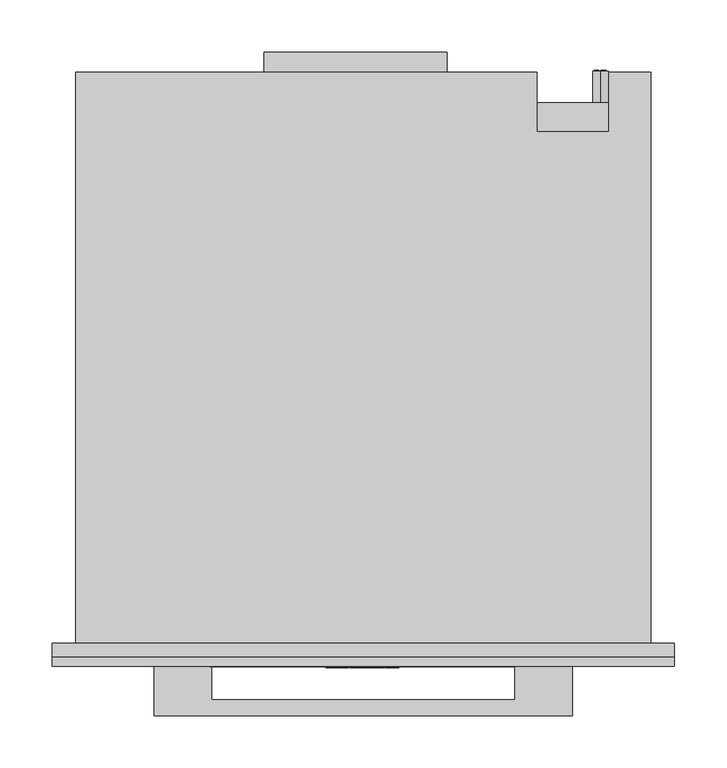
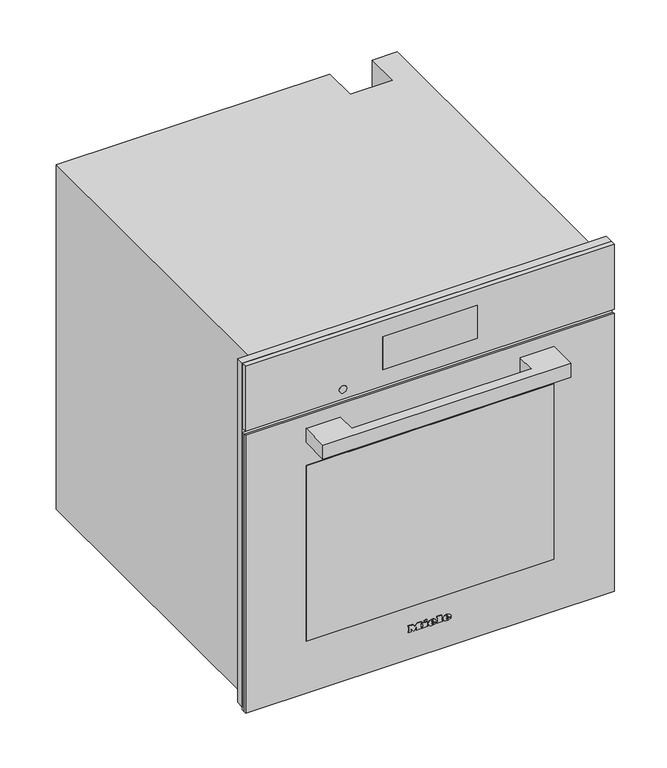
"""IFC4 building model written with IfcOpenShell, lengths in millimetres: proxy geometry, 11877000_USA_DGC7860_OBSW : 23786023_USA_11877000_DGC7860_OBSW."""

from ifc_helpers import new_model, si_unit, point, frame, frame_2d, origin, place, context, project, spatial, polyline, circle_curve, ellipse_curve, trimmed, segment, composite_curve, outline, extrude, faceted_brep, source, transform, mapped, element, save
from ifc_brep_helpers import plane_surface, cylinder_surface, revolved_surface, extruded_surface, advanced_brep


def specialty_equipment_37460341(model_context):
    return source(origin(), model_context, "Body", "SolidModel", [
        extrude(outline(polyline([(596.0, 297.5), (596.0, -297.5), (9.0, -297.5), (9.0, 297.5), (596.0, 297.5)]), holes=[polyline([(485.0, -272.5), (485.0, 272.5), (27.0, 272.5), (27.0, -272.5), (485.0, -272.5)])]), frame((0.0, -13.0, 0.0), z_axis=(0.0, 1.0, 0.0), x_axis=(0.0, 0.0, 1.0)), (0.0, 0.0, 1.0), 13.0),
        extrude(outline(polyline([(-95.0, 565.0), (80.0, 565.0), (80.0, 546.0), (-95.0, 546.0), (-95.0, 565.0)])), frame((0.0, 0.0, 311.0), z_axis=(0.0, 0.0, 1.0), x_axis=(1.0, 0.0, 0.0)), (0.0, 0.0, 1.0), 1.0),
        advanced_brep(
        [(227.0, 547.0, 396.5), (227.0, 547.0, 381.5), (221.4098301, 547.0, 384.0), (225.5, 547.0, 384.0), (225.5, 547.0, 394.0), (224.4955303, 547.0, 394.0), (224.4955303, 547.0, 385.0), (221.0315043, 547.0, 385.0), (221.0315043, 547.0, 384.4582978), (232.0, 547.0, 384.0), (232.0, 547.0, 394.0), (227.0, 547.0, 394.0), (227.0, 547.0, 393.0), (231.0, 547.0, 393.0), (231.0, 547.0, 389.5), (228.0, 547.0, 389.5), (228.0, 547.0, 388.5), (231.0, 547.0, 388.5), (231.0, 547.0, 385.0), (227.0, 547.0, 385.0), (227.0, 547.0, 384.0), (227.0, 517.0, 381.5), (227.0, 517.0, 396.5), (232.0, 548.0, 394.0), (232.0, 548.0, 384.0), (227.0, 548.0, 384.0), (227.0, 548.0, 385.0), (231.0, 548.0, 385.0), (231.0, 548.0, 388.5), (228.0, 548.0, 388.5), (228.0, 548.0, 389.5), (231.0, 548.0, 389.5), (231.0, 548.0, 393.0), (227.0, 548.0, 393.0), (227.0, 548.0, 394.0), (225.5, 548.0, 384.0), (221.0315043, 548.0, 384.0), (221.0315043, 548.0, 385.0), (224.4955303, 548.0, 385.0), (224.4955303, 548.0, 394.0), (225.5, 548.0, 394.0), (221.0315043, 547.0, 384.0)],
        [
            (0, 1, circle_curve(frame((227.0, 547.0, 389.0), z_axis=(0.0, 1.0, 0.0), x_axis=(0.0, 0.0, 1.0)), 7.5)),
            (1, 2, circle_curve(frame((227.0, 547.0, 389.0), z_axis=(0.0, 1.0, 0.0), x_axis=(0.0, 0.0, 1.0)), 7.5)),
            (2, 3),
            (3, 4),
            (4, 5),
            (5, 6),
            (6, 7),
            (7, 8),
            (8, 0, circle_curve(frame((227.0, 547.0, 389.0), z_axis=(0.0, 1.0, 0.0), x_axis=(0.0, 0.0, 1.0)), 7.5)),
            (9, 10),
            (10, 11),
            (11, 12),
            (12, 13),
            (13, 14),
            (14, 15),
            (15, 16),
            (16, 17),
            (17, 18),
            (18, 19),
            (19, 20),
            (20, 9),
            (21, 22, circle_curve(frame((227.0, 517.0, 389.0), z_axis=(0.0, -1.0, 0.0), x_axis=(0.0, 0.0, 1.0)), 7.5)),
            (22, 21, circle_curve(frame((227.0, 517.0, 389.0), z_axis=(0.0, -1.0, 0.0), x_axis=(0.0, 0.0, 1.0)), 7.5)),
            (0, 22),
            (21, 1),
            (8, 2, circle_curve(frame((227.0, 547.0, 389.0), z_axis=(0.0, -1.0, 0.0), x_axis=(0.0, 0.0, 1.0)), 7.5)),
            (23, 24),
            (24, 25),
            (25, 26),
            (26, 27),
            (27, 28),
            (28, 29),
            (29, 30),
            (30, 31),
            (31, 32),
            (32, 33),
            (33, 34),
            (34, 23),
            (35, 36),
            (36, 37),
            (37, 38),
            (38, 39),
            (39, 40),
            (40, 35),
            (8, 41),
            (41, 2),
            (23, 10),
            (9, 24),
            (20, 25),
            (19, 26),
            (18, 27),
            (17, 28),
            (16, 29),
            (15, 30),
            (14, 31),
            (13, 32),
            (12, 33),
            (11, 34),
            (35, 3),
            (41, 36),
            (7, 37),
            (6, 38),
            (5, 39),
            (4, 40),
        ],
        [
            plane_surface(frame((227.0, 547.0, 396.5), z_axis=(0.0, 1.0, 0.0), x_axis=(1.0, 0.0, 0.0))),
            plane_surface(frame((227.0, 517.0, 396.5), z_axis=(0.0, -1.0, 0.0), x_axis=(-1.0, 0.0, 0.0))),
            cylinder_surface(frame((227.0, 547.0, 389.0), z_axis=(0.0, -1.0, 0.0), x_axis=(0.0, 0.0, 1.0)), 7.5),
            plane_surface(frame((232.0, 548.0, 394.0), z_axis=(0.0, 1.0, 0.0), x_axis=(0.0, 0.0, -1.0))),
            plane_surface(frame((232.0, 547.0, 394.0), z_axis=(0.0, -1.0, 0.0), x_axis=(0.0, 0.0, 1.0))),
            plane_surface(frame((232.0, 548.0, 394.0), z_axis=(1.0, 0.0, 0.0), x_axis=(0.0, -1.0, 0.0))),
            plane_surface(frame((232.0, 548.0, 384.0), z_axis=(0.0, 0.0, -1.0), x_axis=(0.0, -1.0, 0.0))),
            plane_surface(frame((227.0, 548.0, 384.0), z_axis=(-1.0, 0.0, 0.0), x_axis=(0.0, -1.0, 0.0))),
            plane_surface(frame((227.0, 548.0, 385.0), z_axis=(0.0, 0.0, 1.0), x_axis=(0.0, -1.0, 0.0))),
            plane_surface(frame((231.0, 548.0, 385.0), z_axis=(-1.0, 0.0, 0.0), x_axis=(0.0, -1.0, 0.0))),
            plane_surface(frame((231.0, 548.0, 388.5), z_axis=(0.0, 0.0, -1.0), x_axis=(0.0, -1.0, 0.0))),
            plane_surface(frame((228.0, 548.0, 388.5), z_axis=(-1.0, 0.0, 0.0), x_axis=(0.0, -1.0, 0.0))),
            plane_surface(frame((228.0, 548.0, 389.5), z_axis=(0.0, 0.0, 1.0), x_axis=(0.0, -1.0, 0.0))),
            plane_surface(frame((231.0, 548.0, 389.5), z_axis=(-1.0, 0.0, 0.0), x_axis=(0.0, -1.0, 0.0))),
            plane_surface(frame((231.0, 548.0, 393.0), z_axis=(0.0, 0.0, -1.0), x_axis=(0.0, -1.0, 0.0))),
            plane_surface(frame((227.0, 548.0, 393.0), z_axis=(-1.0, 0.0, 0.0), x_axis=(0.0, -1.0, 0.0))),
            plane_surface(frame((227.0, 548.0, 394.0), z_axis=(0.0, 0.0, 1.0), x_axis=(0.0, -1.0, 0.0))),
            plane_surface(frame((225.5, 548.0, 384.0), z_axis=(0.0, 0.0, -1.0), x_axis=(0.0, -1.0, 0.0))),
            plane_surface(frame((221.0315043, 548.0, 384.0), z_axis=(-1.0, 0.0, 0.0), x_axis=(0.0, -1.0, 0.0))),
            plane_surface(frame((221.0315043, 548.0, 385.0), z_axis=(0.0, 0.0, 1.0), x_axis=(0.0, -1.0, 0.0))),
            plane_surface(frame((224.4955303, 548.0, 385.0), z_axis=(-1.0, 0.0, 0.0), x_axis=(0.0, -1.0, 0.0))),
            plane_surface(frame((224.4955303, 548.0, 394.0), z_axis=(0.0, 0.0, 1.0), x_axis=(0.0, -1.0, 0.0))),
            plane_surface(frame((225.5, 548.0, 394.0), z_axis=(1.0, 0.0, 0.0), x_axis=(0.0, -1.0, 0.0))),
        ],
        [
            (0, [[1, 2, 3, 4, 5, 6, 7, 8, 9], [10, 11, 12, 13, 14, 15, 16, 17, 18, 19, 20, 21]]),
            (1, [[22, 23]]),
            (2, [[-1, 24, -22, 25]]),
            (2, [[-23, -24, -9, 26, -2, -25]]),
            (3, [[27, 28, 29, 30, 31, 32, 33, 34, 35, 36, 37, 38]]),
            (3, [[39, 40, 41, 42, 43, 44]]),
            (4, [[45, 46, -26]]),
            (5, [[-27, 47, -10, 48]]),
            (6, [[-28, -48, -21, 49]]),
            (7, [[-29, -49, -20, 50]]),
            (8, [[-30, -50, -19, 51]]),
            (9, [[-31, -51, -18, 52]]),
            (10, [[-32, -52, -17, 53]]),
            (11, [[-33, -53, -16, 54]]),
            (12, [[-34, -54, -15, 55]]),
            (13, [[-35, -55, -14, 56]]),
            (14, [[-36, -56, -13, 57]]),
            (15, [[-37, -57, -12, 58]]),
            (16, [[-38, -58, -11, -47]]),
            (17, [[-39, 59, -3, -46, 60]]),
            (18, [[-40, -60, -45, -8, 61]]),
            (19, [[-41, -61, -7, 62]]),
            (20, [[-42, -62, -6, 63]]),
            (21, [[-43, -63, -5, 64]]),
            (22, [[-44, -64, -4, -59]]),
        ],
    ),
        faceted_brep([(-275.0, 546.0, 0.0), (-275.0, 546.0, 588.0), (166.0, 546.0, 588.0), (166.0, 546.0, 0.0), (235.0, 546.0, 588.0), (275.0, 546.0, 588.0), (275.0, 546.0, 478.0), (235.0, 546.0, 478.0), (275.0, 0.0, 588.0), (-275.0, 0.0, 588.0), (-275.0, 0.0, 0.0), (275.0, 0.0, 0.0), (-272.5, 0.0, 485.0), (272.5, 0.0, 485.0), (272.5, 0.0, 27.0), (-272.5, 0.0, 27.0), (235.0, 489.0, 588.0), (166.0, 489.0, 588.0), (166.0, 517.0, 0.0), (275.0, 517.0, 0.0), (275.0, 517.0, 478.0), (272.5, 17.0, 485.0), (-272.5, 17.0, 485.0), (-272.5, 17.0, 27.0), (272.5, 17.0, 27.0), (231.0, 17.0, 409.0), (231.0, 17.0, 61.0), (-231.0, 17.0, 61.0), (-231.0, 17.0, 409.0), (231.0, 411.0, 409.0), (-231.0, 411.0, 409.0), (-231.0, 411.0, 61.0), (231.0, 411.0, 61.0), (235.0, 489.0, 477.0), (166.0, 489.0, 477.0), (166.0, 517.0, 477.0), (235.0, 517.0, 477.0), (235.0, 517.0, 478.0)], [[[0, 1, 2, 3]], [[4, 5, 6, 7]], [[8, 9, 10, 11], [12, 13, 14, 15]], [[9, 8, 5, 4, 16, 17, 2, 1]], [[1, 0, 10, 9]], [[11, 10, 0, 3, 18, 19]], [[8, 11, 19, 20, 6, 5]], [[21, 22, 23, 24], [25, 26, 27, 28]], [[22, 21, 13, 12]], [[23, 22, 12, 15]], [[24, 23, 15, 14]], [[21, 24, 14, 13]], [[29, 30, 31, 32]], [[29, 32, 26, 25]], [[32, 31, 27, 26]], [[31, 30, 28, 27]], [[30, 29, 25, 28]], [[16, 33, 34, 17]], [[17, 34, 35, 18, 3, 2]], [[34, 33, 36, 35]], [[33, 16, 4, 7, 37, 36]], [[37, 20, 19, 18, 35, 36]], [[20, 37, 7, 6]]]),
        advanced_brep(
        [(26.2998, -23.0, 52.7018), (26.2998, -23.0, 53.8532), (33.9264, -23.0, 53.8532), (20.6568, -23.0, 53.8532), (23.7918, -23.0, 50.0), (33.7326, -23.0, 52.7018), (30.2898, -23.0, 52.7018), (27.5766, -23.0, 51.425), (26.2998, -23.0, 55.3124), (26.2998, -23.0, 56.555), (28.2492, -23.0, 56.555), (28.2492, -23.0, 55.3124), (26.2998, -22.0, 52.7018), (27.5766, -22.0, 51.425), (30.2898, -22.0, 52.7018), (33.7326, -22.0, 52.7018), (23.7918, -22.0, 50.0), (20.6568, -22.0, 53.8532), (33.9264, -22.0, 53.8532), (26.2998, -22.0, 53.8532), (26.2998, -22.0, 55.3124), (28.2492, -22.0, 55.3124), (28.2492, -22.0, 56.555), (26.2998, -22.0, 56.555)],
        [
            (0, 1),
            (1, 2),
            (2, 3, ellipse_curve(frame((27.2916, -23.0, 53.8532), z_axis=(0.0, -1.0, 0.0), x_axis=(-1.0, 0.0, 0.0)), 6.6348, 5.4834)),
            (3, 4, circle_curve(frame((25.0686622, -23.0, 54.2408), z_axis=(0.0, -1.0, 0.0), x_axis=(0.0, 0.0, -1.0)), 4.4288556)),
            (4, 5, circle_curve(frame((27.1587808, -23.0, 57.2504), z_axis=(0.0, -1.0, 0.0), x_axis=(0.0, 0.0, -1.0)), 7.9940516)),
            (5, 6),
            (6, 7, circle_curve(frame((28.1338588, -23.0, 53.762), z_axis=(0.0, 1.0, 0.0), x_axis=(0.0, 0.0, -1.0)), 2.4025208)),
            (7, 0, circle_curve(frame((27.5766, -23.0, 52.7018), z_axis=(0.0, 1.0, 0.0), x_axis=(0.0, 0.0, -1.0)), 1.2768)),
            (8, 9),
            (9, 10, circle_curve(frame((27.2745, -23.0, 56.555), z_axis=(0.0, 1.0, 0.0), x_axis=(0.0, 0.0, -1.0)), 0.9747)),
            (10, 11),
            (11, 8),
            (12, 13, circle_curve(frame((27.5766, -22.0, 52.7018), z_axis=(0.0, -1.0, 0.0), x_axis=(0.0, 0.0, -1.0)), 1.2768)),
            (13, 14, circle_curve(frame((28.1338588, -22.0, 53.762), z_axis=(0.0, -1.0, 0.0), x_axis=(0.0, 0.0, -1.0)), 2.4025208)),
            (14, 15),
            (15, 16, circle_curve(frame((27.1587808, -22.0, 57.2504), z_axis=(0.0, 1.0, 0.0), x_axis=(0.0, 0.0, -1.0)), 7.9940516)),
            (16, 17, circle_curve(frame((25.0686622, -22.0, 54.2408), z_axis=(0.0, 1.0, 0.0), x_axis=(0.0, 0.0, -1.0)), 4.4288556)),
            (17, 18, ellipse_curve(frame((27.2916, -22.0, 53.8532), z_axis=(0.0, 1.0, 0.0), x_axis=(-1.0, 0.0, 0.0)), 6.6348, 5.4834)),
            (18, 19),
            (19, 12),
            (20, 21),
            (21, 22),
            (22, 23, circle_curve(frame((27.2745, -22.0, 56.555), z_axis=(0.0, -1.0, 0.0), x_axis=(0.0, 0.0, -1.0)), 0.9747)),
            (23, 20),
            (0, 12),
            (19, 1),
            (18, 2),
            (5, 15),
            (14, 6),
            (17, 3),
            (13, 7),
            (16, 4),
            (8, 20),
            (23, 9),
            (22, 10),
            (21, 11),
        ],
        [
            plane_surface(frame((26.2998, -23.0, 53.8532), z_axis=(0.0, -1.0, 0.0), x_axis=(0.0, 0.0, 1.0))),
            plane_surface(frame((26.2998, -22.0, 53.8532), z_axis=(0.0, 1.0, 0.0), x_axis=(0.0, 0.0, -1.0))),
            plane_surface(frame((26.2998, -23.0, 52.7018), z_axis=(1.0, 0.0, 0.0), x_axis=(0.0, 1.0, 0.0))),
            plane_surface(frame((26.2998, -23.0, 53.8532), z_axis=(0.0, 0.0, -1.0), x_axis=(0.0, 1.0, 0.0))),
            plane_surface(frame((33.7326, -23.0, 52.7018), z_axis=(0.0, 0.0, 1.0), x_axis=(0.0, 1.0, 0.0))),
            extruded_surface(trimmed(ellipse_curve(frame((27.2916, -21.0, 53.8532), z_axis=(0.0, -1.0, 0.0), x_axis=(-1.0, 0.0, 0.0)), 6.6348, 5.4834), [point((33.9264, -21.0, 53.8532))], [point((20.6568, -21.0, 53.8532))], True, "CARTESIAN"), (0.0, -1.0, 0.0), 1.0),
            revolved_surface(polyline([(28.1338588, -22.0, 51.3594792), (28.1338588, -23.0, 51.3594792)]), (28.1338588, -22.0, 53.762), (0.0, 1.0, 0.0)),
            revolved_surface(polyline([(27.5766, -22.0, 51.425), (27.5766, -23.0, 51.425)]), (27.5766, -22.0, 52.7018), (0.0, 1.0, 0.0)),
            cylinder_surface(frame((25.0686622, -22.0, 54.2408), z_axis=(0.0, -1.0, 0.0), x_axis=(0.0, 0.0, -1.0)), 4.4288556),
            cylinder_surface(frame((27.1587808, -22.0, 57.2504), z_axis=(0.0, -1.0, 0.0), x_axis=(0.0, 0.0, -1.0)), 7.9940516),
            plane_surface(frame((26.2998, -23.0, 55.3124), z_axis=(1.0, 0.0, 0.0), x_axis=(0.0, 1.0, 0.0))),
            revolved_surface(polyline([(27.2745, -22.0, 55.5803), (27.2745, -23.0, 55.5803)]), (27.2745, -22.0, 56.555), (0.0, 1.0, 0.0)),
            plane_surface(frame((28.2492, -23.0, 56.555), z_axis=(-1.0, 0.0, 0.0), x_axis=(0.0, 1.0, 0.0))),
            plane_surface(frame((28.2492, -23.0, 55.3124), z_axis=(0.0, 0.0, 1.0), x_axis=(0.0, 1.0, 0.0))),
        ],
        [
            (0, [[1, 2, 3, 4, 5, 6, 7, 8], [9, 10, 11, 12]]),
            (1, [[13, 14, 15, 16, 17, 18, 19, 20], [21, 22, 23, 24]]),
            (2, [[-1, 25, -20, 26]]),
            (3, [[-2, -26, -19, 27]]),
            (4, [[-6, 28, -15, 29]]),
            (5, [[-3, -27, -18, 30]]),
            (6, [[-7, -29, -14, 31]]),
            (7, [[-8, -31, -13, -25]]),
            (8, [[-4, -30, -17, 32]]),
            (9, [[-5, -32, -16, -28]]),
            (10, [[-9, 33, -24, 34]]),
            (11, [[-10, -34, -23, 35]]),
            (12, [[-11, -35, -22, 36]]),
            (13, [[-12, -36, -21, -33]]),
        ],
    ),
        advanced_brep(
        [(2.508, -23.0, 52.7018), (2.508, -23.0, 53.8532), (10.1346, -23.0, 53.8532), (-3.135, -23.0, 53.8532), (0.0, -23.0, 50.0), (9.9408, -23.0, 52.7018), (6.498, -23.0, 52.7018), (3.7848, -23.0, 51.425), (2.508, -23.0, 55.3124), (2.508, -23.0, 56.555), (4.4574, -23.0, 56.555), (4.4574, -23.0, 55.3124), (2.508, -22.0, 52.7018), (3.7848, -22.0, 51.425), (6.498, -22.0, 52.7018), (9.9408, -22.0, 52.7018), (0.0, -22.0, 50.0), (-3.135, -22.0, 53.8532), (10.1346, -22.0, 53.8532), (2.508, -22.0, 53.8532), (2.508, -22.0, 55.3124), (4.4574, -22.0, 55.3124), (4.4574, -22.0, 56.555), (2.508, -22.0, 56.555)],
        [
            (0, 1),
            (1, 2),
            (2, 3, ellipse_curve(frame((3.4998, -23.0, 53.8532), z_axis=(0.0, -1.0, 0.0), x_axis=(-1.0, 0.0, 0.0)), 6.6348, 5.4834)),
            (3, 4, circle_curve(frame((1.2768622, -23.0, 54.2408), z_axis=(0.0, -1.0, 0.0), x_axis=(0.0, 0.0, -1.0)), 4.4288556)),
            (4, 5, circle_curve(frame((3.3669808, -23.0, 57.2504), z_axis=(0.0, -1.0, 0.0), x_axis=(0.0, 0.0, -1.0)), 7.9940516)),
            (5, 6),
            (6, 7, circle_curve(frame((4.3420588, -23.0, 53.762), z_axis=(0.0, 1.0, 0.0), x_axis=(0.0, 0.0, -1.0)), 2.4025208)),
            (7, 0, circle_curve(frame((3.7848, -23.0, 52.7018), z_axis=(0.0, 1.0, 0.0), x_axis=(0.0, 0.0, -1.0)), 1.2768)),
            (8, 9),
            (9, 10, circle_curve(frame((3.4827, -23.0, 56.555), z_axis=(0.0, 1.0, 0.0), x_axis=(0.0, 0.0, -1.0)), 0.9747)),
            (10, 11),
            (11, 8),
            (12, 13, circle_curve(frame((3.7848, -22.0, 52.7018), z_axis=(0.0, -1.0, 0.0), x_axis=(0.0, 0.0, -1.0)), 1.2768)),
            (13, 14, circle_curve(frame((4.3420588, -22.0, 53.762), z_axis=(0.0, -1.0, 0.0), x_axis=(0.0, 0.0, -1.0)), 2.4025208)),
            (14, 15),
            (15, 16, circle_curve(frame((3.3669808, -22.0, 57.2504), z_axis=(0.0, 1.0, 0.0), x_axis=(0.0, 0.0, -1.0)), 7.9940516)),
            (16, 17, circle_curve(frame((1.2768622, -22.0, 54.2408), z_axis=(0.0, 1.0, 0.0), x_axis=(0.0, 0.0, -1.0)), 4.4288556)),
            (17, 18, ellipse_curve(frame((3.4998, -22.0, 53.8532), z_axis=(0.0, 1.0, 0.0), x_axis=(-1.0, 0.0, 0.0)), 6.6348, 5.4834)),
            (18, 19),
            (19, 12),
            (20, 21),
            (21, 22),
            (22, 23, circle_curve(frame((3.4827, -22.0, 56.555), z_axis=(0.0, -1.0, 0.0), x_axis=(0.0, 0.0, -1.0)), 0.9747)),
            (23, 20),
            (0, 12),
            (19, 1),
            (18, 2),
            (5, 15),
            (14, 6),
            (17, 3),
            (13, 7),
            (16, 4),
            (8, 20),
            (23, 9),
            (22, 10),
            (21, 11),
        ],
        [
            plane_surface(frame((2.508, -23.0, 53.8532), z_axis=(0.0, -1.0, 0.0), x_axis=(0.0, 0.0, 1.0))),
            plane_surface(frame((2.508, -22.0, 53.8532), z_axis=(0.0, 1.0, 0.0), x_axis=(0.0, 0.0, -1.0))),
            plane_surface(frame((2.508, -23.0, 52.7018), z_axis=(1.0, 0.0, 0.0), x_axis=(0.0, 1.0, 0.0))),
            plane_surface(frame((2.508, -23.0, 53.8532), z_axis=(0.0, 0.0, -1.0), x_axis=(0.0, 1.0, 0.0))),
            plane_surface(frame((9.9408, -23.0, 52.7018), z_axis=(0.0, 0.0, 1.0), x_axis=(0.0, 1.0, 0.0))),
            extruded_surface(trimmed(ellipse_curve(frame((3.4998, -21.0, 53.8532), z_axis=(0.0, -1.0, 0.0), x_axis=(-1.0, 0.0, 0.0)), 6.6348, 5.4834), [point((10.1346, -21.0, 53.8532))], [point((-3.135, -21.0, 53.8532))], True, "CARTESIAN"), (0.0, -1.0, 0.0), 1.0),
            revolved_surface(polyline([(4.3420588, -22.0, 51.3594792), (4.3420588, -23.0, 51.3594792)]), (4.3420588, -22.0, 53.762), (0.0, 1.0, 0.0)),
            revolved_surface(polyline([(3.7848, -22.0, 51.425), (3.7848, -23.0, 51.425)]), (3.7848, -22.0, 52.7018), (0.0, 1.0, 0.0)),
            cylinder_surface(frame((1.2768622, -22.0, 54.2408), z_axis=(0.0, -1.0, 0.0), x_axis=(0.0, 0.0, -1.0)), 4.4288556),
            cylinder_surface(frame((3.3669808, -22.0, 57.2504), z_axis=(0.0, -1.0, 0.0), x_axis=(0.0, 0.0, -1.0)), 7.9940516),
            plane_surface(frame((2.508, -23.0, 55.3124), z_axis=(1.0, 0.0, 0.0), x_axis=(0.0, 1.0, 0.0))),
            revolved_surface(polyline([(3.4827, -22.0, 55.5803), (3.4827, -23.0, 55.5803)]), (3.4827, -22.0, 56.555), (0.0, 1.0, 0.0)),
            plane_surface(frame((4.4574, -23.0, 56.555), z_axis=(-1.0, 0.0, 0.0), x_axis=(0.0, 1.0, 0.0))),
            plane_surface(frame((4.4574, -23.0, 55.3124), z_axis=(0.0, 0.0, 1.0), x_axis=(0.0, 1.0, 0.0))),
        ],
        [
            (0, [[1, 2, 3, 4, 5, 6, 7, 8], [9, 10, 11, 12]]),
            (1, [[13, 14, 15, 16, 17, 18, 19, 20], [21, 22, 23, 24]]),
            (2, [[-1, 25, -20, 26]]),
            (3, [[-2, -26, -19, 27]]),
            (4, [[-6, 28, -15, 29]]),
            (5, [[-3, -27, -18, 30]]),
            (6, [[-7, -29, -14, 31]]),
            (7, [[-8, -31, -13, -25]]),
            (8, [[-4, -30, -17, 32]]),
            (9, [[-5, -32, -16, -28]]),
            (10, [[-9, 33, -24, 34]]),
            (11, [[-10, -34, -23, 35]]),
            (12, [[-11, -35, -22, 36]]),
            (13, [[-12, -36, -21, -33]]),
        ],
    ),
        extrude(outline(polyline([(60.7274, -9.9522), (58.8806, -9.0858), (60.6818, -5.2212), (62.5286, -6.0762), (60.7274, -9.9522)])), frame((0.0, -23.0, 0.0), z_axis=(0.0, 1.0, 0.0), x_axis=(0.0, 0.0, 1.0)), (0.0, 0.0, 1.0), 1.0),
        extrude(outline(polyline([(58.6298, -12.768), (56.5892, -12.768), (56.5892, -11.4114), (51.9152, -11.4114), (51.9152, -12.768), (50.0, -12.768), (50.0, -3.7734), (51.9152, -3.7734), (51.9152, -5.0958), (58.6298, -5.0958), (58.6298, -12.768)])), frame((0.0, -23.0, 0.0), z_axis=(0.0, 1.0, 0.0), x_axis=(0.0, 0.0, 1.0)), (0.0, 0.0, 1.0), 1.0),
        extrude(outline(polyline([(59.5418, 10.773), (59.5418, 12.141), (51.9152, 12.141), (51.9152, 10.773), (50.0, 10.773), (50.0, 20.0184), (51.9152, 20.0184), (51.9152, 18.6162), (61.4, 18.6162), (61.4, 10.773), (59.5418, 10.773)])), frame((0.0, -23.0, 0.0), z_axis=(0.0, 1.0, 0.0), x_axis=(0.0, 0.0, 1.0)), (0.0, 0.0, 1.0), 1.0),
        extrude(outline(polyline([(59.5418, -35.4882), (59.5418, -34.1088), (51.9152, -34.1088), (51.9152, -35.4882), (50.0, -35.4882), (50.0, -30.4722), (51.9152, -30.4722), (51.9152, -31.8402), (56.7429247, -31.8402), (50.0, -26.7444), (56.9402223, -21.6258), (51.9152, -21.6258), (51.9152, -23.028), (50.0, -23.028), (50.0, -13.9308), (51.9152, -13.9308), (51.9152, -15.3786), (59.5418, -15.3786), (59.5418, -13.9308), (61.4, -13.9308), (61.4, -20.8734), (57.125, -24.2022), (61.4, -27.5424), (61.4, -35.4882), (59.5418, -35.4882)])), frame((0.0, -23.0, 0.0), z_axis=(0.0, 1.0, 0.0), x_axis=(0.0, 0.0, 1.0)), (0.0, 0.0, 1.0), 1.0),
        extrude(outline(composite_curve([segment(trimmed(circle_curve(frame_2d((502.0, -140.5745637)), 6.0), [point((502.0, -146.5745637))], [point((502.0, -134.5745637))], False, "CARTESIAN"), True, "CONTINUOUS"), segment(trimmed(circle_curve(frame_2d((502.0, -140.5745637)), 6.0), [point((502.0, -134.5745637))], [point((502.0, -146.5745637))], False, "CARTESIAN"), True, "CONTINUOUS")], self_intersect=False)), frame((0.0, -22.5, 0.0), z_axis=(0.0, 1.0, 0.0), x_axis=(0.0, 0.0, 1.0)), (0.0, 0.0, 1.0), 1.0),
        extrude(outline(polyline([(-76.5, -21.0), (76.5, -21.0), (76.5, -22.0), (-76.5, -22.0), (-76.5, -21.0)])), frame((0.0, 0.0, 513.0), z_axis=(0.0, 0.0, 1.0), x_axis=(1.0, 0.0, 0.0)), (0.0, 0.0, 1.0), 56.0),
        faceted_brep([(297.5, -22.0, 596.0), (-297.5, -22.0, 596.0), (-297.5, -22.0, 485.0), (297.5, -22.0, 485.0), (76.5, -22.0, 569.0), (76.5, -22.0, 513.0), (-76.5, -22.0, 513.0), (-76.5, -22.0, 569.0), (297.5, -13.0, 596.0), (297.5, -13.0, 485.0), (-297.5, -13.0, 485.0), (-297.5, -13.0, 596.0), (76.5, -21.0, 569.0), (-76.5, -21.0, 569.0), (-76.5, -21.0, 513.0), (76.5, -21.0, 513.0)], [[[0, 1, 2, 3], [4, 5, 6, 7]], [[8, 9, 10, 11]], [[1, 0, 8, 11]], [[2, 1, 11, 10]], [[3, 2, 10, 9]], [[0, 3, 9, 8]], [[12, 13, 14, 15]], [[12, 15, 5, 4]], [[15, 14, 6, 5]], [[14, 13, 7, 6]], [[13, 12, 4, 7]]]),
        extrude(outline(polyline([(200.0, -22.0), (-200.0, -22.0), (-200.0, -18.0), (200.0, -18.0), (200.0, -22.0)])), frame((0.0, 0.0, 92.5), z_axis=(0.0, 0.0, 1.0), x_axis=(1.0, 0.0, 0.0)), (0.0, 0.0, 1.0), 300.0),
        extrude(outline(polyline([(478.0, 297.5), (478.0, -297.5), (4.0, -297.5), (4.0, 297.5), (478.0, 297.5)]), holes=[polyline([(392.5, -200.0), (392.5, 200.0), (92.5, 200.0), (92.5, -200.0), (392.5, -200.0)])]), frame((0.0, -22.0, 0.0), z_axis=(0.0, 1.0, 0.0), x_axis=(0.0, 0.0, 1.0)), (0.0, 0.0, 1.0), 4.0),
        extrude(outline(polyline([(-200.0, -69.0), (-200.0, -22.0), (-145.0, -22.0), (-145.0, -54.0), (145.0, -54.0), (145.0, -22.0), (200.0, -22.0), (200.0, -69.0), (-200.0, -69.0)])), frame((0.0, 0.0, 432.0), z_axis=(0.0, 0.0, 1.0), x_axis=(1.0, 0.0, 0.0)), (0.0, 0.0, 1.0), 24.0),
        extrude(outline(polyline([(297.5, -18.0), (-297.5, -18.0), (-297.5, -13.0), (297.5, -13.0), (297.5, -18.0)])), frame((0.0, 0.0, 4.0), z_axis=(0.0, 0.0, 1.0), x_axis=(1.0, 0.0, 0.0)), (0.0, 0.0, 1.0), 474.0),
    ])


if __name__ == "__main__":
    model = new_model("IFC4")
    model_context = context("Model", 3, world=origin())
    ifc_project = project(units=[si_unit("LENGTHUNIT", "METRE", prefix="MILLI")], contexts=[model_context])
    site = spatial("IfcSite", under=ifc_project)
    building = spatial("IfcBuilding", under=site)
    placement = place(None, origin())
    specialty_equipment_shape = specialty_equipment_37460341(model_context)
    element("IfcBuildingElementProxy", 1, Name="11877000_USA_DGC7860_OBSW : 23786023_USA_11877000_DGC7860_OBSW", ObjectType="11877000_USA_DGC7860_OBSW : 23786023_USA_11877000_DGC7860_OBSW", at=placement, inside=building, context=model_context, shape_type="MappedRepresentation", body=[
        mapped(specialty_equipment_shape, transform((0.0, 0.0, 0.0), x_axis=(1.0, 0.0, 0.0), y_axis=(0.0, 1.0, 0.0), z_axis=(0.0, 0.0, 1.0))),
    ])
    save(model, "model.ifc")
